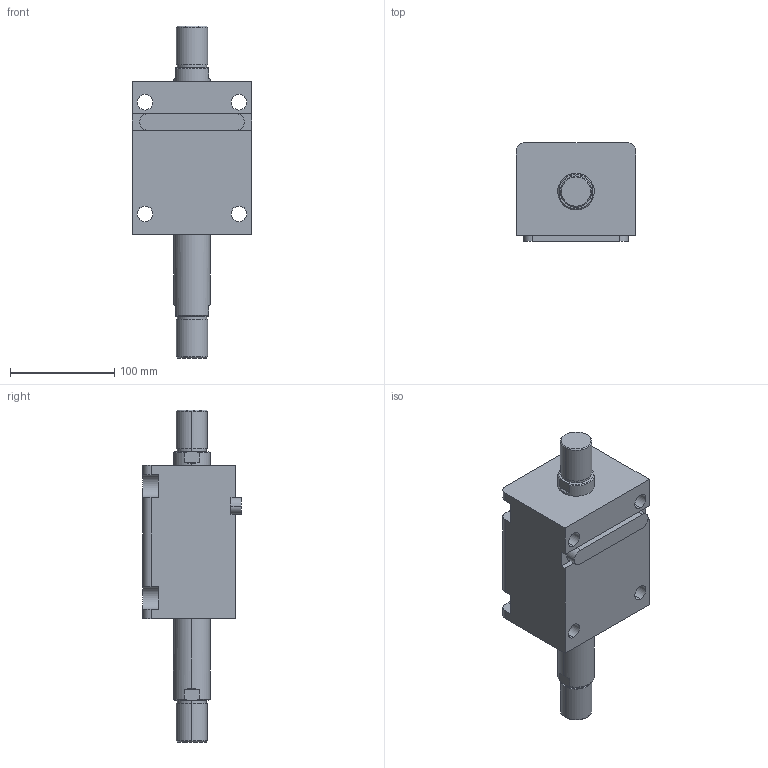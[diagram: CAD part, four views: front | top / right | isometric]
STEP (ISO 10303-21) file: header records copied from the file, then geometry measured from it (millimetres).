
FILE_DESCRIPTION (( 'STEP AP203' ), '1' );
FILE_NAME ('HTB-LW63-65W.STEP', '2019-10-09T08:27:56', ( '微软用户' ), ( '微软中国' ), 'SwSTEP 2.0', 'SolidWorks 2012', '' );
FILE_SCHEMA (( 'CONFIG_CONTROL_DESIGN' ));
Length unit declared in the file: millimetre
Products named in the file (4): HTB-LW63-65W; HTB-LA63-瑩; HTB-LW63-65W活塞杆; HTB-LW63-65掛极
Assembly tree (3 placements, depth 2):
  HTB-LW63-65W
    HTB-LW63-65掛极
    HTB-LW63-65W活塞杆
    HTB-LA63-瑩
Bounding box: 114 x 94.5 x 318 mm (x, y, z)
Volume: 1415327.6 mm3; surface area: 168565.2 mm2
Topology: 3 solids, 3 shells, 109 faces, 265 edges, 174 vertices
Faces by surface type: plane 48, cylinder 45, cone 12, torus 4
Entity records: 3679 total; most frequent: CARTESIAN_POINT 610, DIRECTION 593, ORIENTED_EDGE 530, EDGE_CURVE 265, AXIS2_PLACEMENT_3D 229, VERTEX_POINT 174, VECTOR 135, LINE 135
